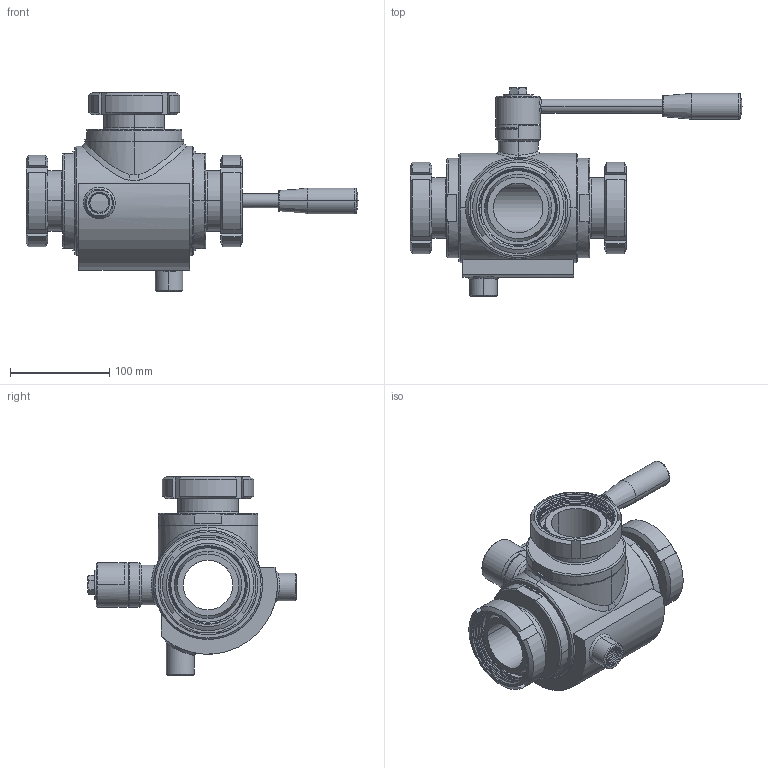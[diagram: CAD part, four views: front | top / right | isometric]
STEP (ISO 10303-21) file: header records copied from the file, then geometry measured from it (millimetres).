
FILE_DESCRIPTION((''),'2;1');
FILE_NAME('300127C63810_SW0001','2026-05-26T16:28:23',('tecnico2'),('CDM Tecnoconsulting'),'CREO PARAMETRIC BY PTC INC, 2024063','CREO PARAMETRIC BY PTC INC, 2024063','');
FILE_SCHEMA(('CONFIG_CONTROL_DESIGN','SHAPE_APPEARANCE_LAYERS_GROUPS'));
Products named in the file (1): 300127C63810_SW0001
Bounding box: 334.5 x 210.3 x 200 mm (x, y, z)
Volume: 1420962.9 mm3; surface area: 367921.1 mm2
Topology: 1 solids, 1 shells, 1362 faces, 3648 edges, 2340 vertices
Faces by surface type: plane 579, cylinder 290, extrusion 167, cone 146, bspline 122, torus 54, sphere 4
Entity records: 112535 total; most frequent: CARTESIAN_POINT 64314, ORIENTED_EDGE 7264, DIRECTION 5470, PRESENTATION_STYLE_ASSIGNMENT 4461, STYLED_ITEM 3744, CURVE_STYLE 3743, EDGE_CURVE 3632, VERTEX_POINT 2340
